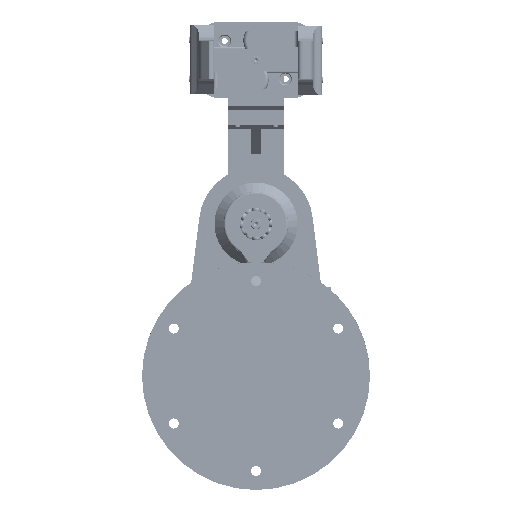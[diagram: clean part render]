
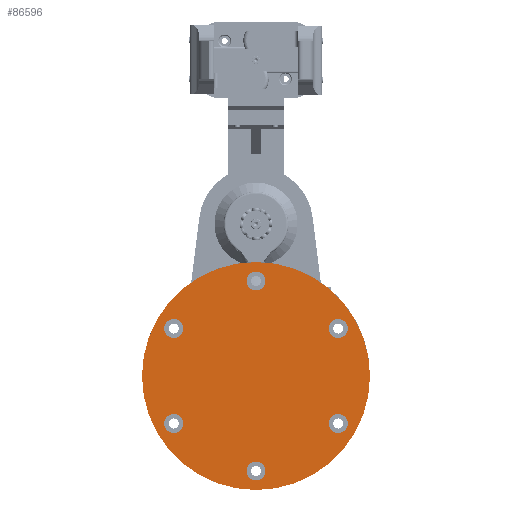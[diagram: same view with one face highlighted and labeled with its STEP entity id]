
A CAD part, front view. The second image highlights one B-rep face of the part: STEP entity #86596.
In plain terms, the highlighted planar face has unit normal (0, -1, 0) as drawn and (0, 0, 1) by its records, which use the part's own axes.
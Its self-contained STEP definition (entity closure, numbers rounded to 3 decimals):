
#2774=FACE_BOUND('',#13202,.T.);
#2775=FACE_BOUND('',#13203,.T.);
#2776=FACE_BOUND('',#13204,.T.);
#2777=FACE_BOUND('',#13205,.T.);
#2778=FACE_BOUND('',#13206,.T.);
#2779=FACE_BOUND('',#13207,.T.);
#3556=CIRCLE('',#93259,5.);
#3560=CIRCLE('',#93266,5.);
#3564=CIRCLE('',#93273,5.);
#3568=CIRCLE('',#93280,5.);
#3572=CIRCLE('',#93287,5.);
#3576=CIRCLE('',#93294,5.);
#3578=CIRCLE('',#93298,60.);
#8255=FACE_OUTER_BOUND('',#13201,.T.);
#13201=EDGE_LOOP('',(#60554));
#13202=EDGE_LOOP('',(#60555));
#13203=EDGE_LOOP('',(#60556));
#13204=EDGE_LOOP('',(#60557));
#13205=EDGE_LOOP('',(#60558));
#13206=EDGE_LOOP('',(#60559));
#13207=EDGE_LOOP('',(#60560));
#35905=VERTEX_POINT('',#129127);
#35909=VERTEX_POINT('',#129140);
#35913=VERTEX_POINT('',#129153);
#35917=VERTEX_POINT('',#129166);
#35921=VERTEX_POINT('',#129179);
#35925=VERTEX_POINT('',#129192);
#35927=VERTEX_POINT('',#129200);
#45112=EDGE_CURVE('',#35905,#35905,#3556,.T.);
#45118=EDGE_CURVE('',#35909,#35909,#3560,.T.);
#45124=EDGE_CURVE('',#35913,#35913,#3564,.T.);
#45130=EDGE_CURVE('',#35917,#35917,#3568,.T.);
#45136=EDGE_CURVE('',#35921,#35921,#3572,.T.);
#45142=EDGE_CURVE('',#35925,#35925,#3576,.T.);
#45145=EDGE_CURVE('',#35927,#35927,#3578,.T.);
#60554=ORIENTED_EDGE('',*,*,#45145,.T.);
#60555=ORIENTED_EDGE('',*,*,#45112,.T.);
#60556=ORIENTED_EDGE('',*,*,#45118,.T.);
#60557=ORIENTED_EDGE('',*,*,#45124,.T.);
#60558=ORIENTED_EDGE('',*,*,#45130,.T.);
#60559=ORIENTED_EDGE('',*,*,#45136,.T.);
#60560=ORIENTED_EDGE('',*,*,#45142,.T.);
#80895=PLANE('',#93300);
#86596=ADVANCED_FACE('',(#8255,#2774,#2775,#2776,#2777,#2778,#2779),#80895,
 .T.);
#93259=AXIS2_PLACEMENT_3D('',#129129,#104926,#104927);
#93266=AXIS2_PLACEMENT_3D('',#129142,#104942,#104943);
#93273=AXIS2_PLACEMENT_3D('',#129155,#104958,#104959);
#93280=AXIS2_PLACEMENT_3D('',#129168,#104974,#104975);
#93287=AXIS2_PLACEMENT_3D('',#129181,#104990,#104991);
#93294=AXIS2_PLACEMENT_3D('',#129194,#105006,#105007);
#93298=AXIS2_PLACEMENT_3D('',#129201,#105015,#105016);
#93300=AXIS2_PLACEMENT_3D('',#129205,#105020,#105021);
#104926=DIRECTION('center_axis',(0.,0.,-1.));
#104927=DIRECTION('ref_axis',(1.,0.,0.));
#104942=DIRECTION('center_axis',(0.,0.,-1.));
#104943=DIRECTION('ref_axis',(1.,0.,0.));
#104958=DIRECTION('center_axis',(0.,0.,-1.));
#104959=DIRECTION('ref_axis',(1.,0.,0.));
#104974=DIRECTION('center_axis',(0.,0.,-1.));
#104975=DIRECTION('ref_axis',(1.,0.,0.));
#104990=DIRECTION('center_axis',(0.,0.,-1.));
#104991=DIRECTION('ref_axis',(1.,0.,0.));
#105006=DIRECTION('center_axis',(0.,0.,-1.));
#105007=DIRECTION('ref_axis',(1.,0.,0.));
#105015=DIRECTION('center_axis',(0.,0.,1.));
#105016=DIRECTION('ref_axis',(1.,0.,0.));
#105020=DIRECTION('center_axis',(0.,0.,1.));
#105021=DIRECTION('ref_axis',(1.,0.,0.));
#129127=CARTESIAN_POINT('',(-55.,0.,30.));
#129129=CARTESIAN_POINT('Origin',(-50.,0.,
30.));
#129140=CARTESIAN_POINT('',(-30.,43.301,30.));
#129142=CARTESIAN_POINT('Origin',(-25.,43.301,30.));
#129153=CARTESIAN_POINT('',(20.,43.301,30.));
#129155=CARTESIAN_POINT('Origin',(25.,43.301,30.));
#129166=CARTESIAN_POINT('',(45.,0.,30.));
#129168=CARTESIAN_POINT('Origin',(50.,0.,30.));
#129179=CARTESIAN_POINT('',(-30.,-43.301,30.));
#129181=CARTESIAN_POINT('Origin',(-25.,-43.301,30.));
#129192=CARTESIAN_POINT('',(20.,-43.301,30.));
#129194=CARTESIAN_POINT('Origin',(25.,-43.301,30.));
#129200=CARTESIAN_POINT('',(-60.,0.,30.));
#129201=CARTESIAN_POINT('Origin',(0.,0.,
30.));
#129205=CARTESIAN_POINT('Origin',(0.,0.,
30.));
